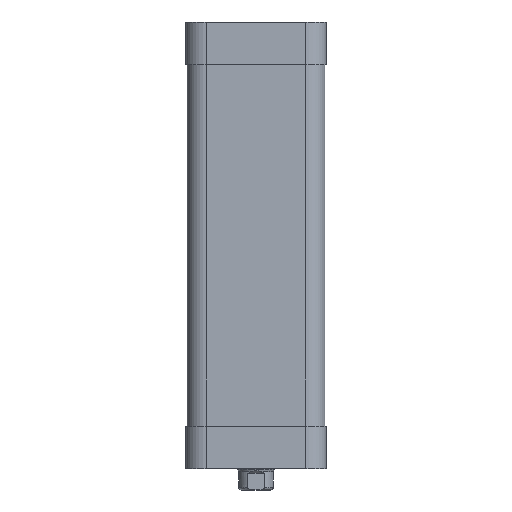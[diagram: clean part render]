
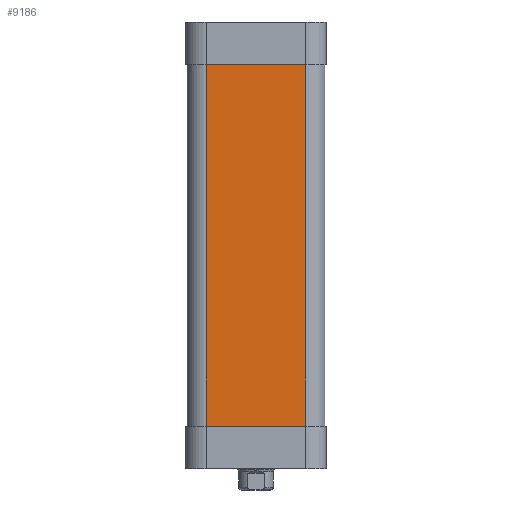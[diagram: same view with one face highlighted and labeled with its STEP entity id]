
A CAD part, front view. The second image highlights one B-rep face of the part: STEP entity #9186.
In plain terms, the highlighted planar face has unit normal (0, -1, 0).
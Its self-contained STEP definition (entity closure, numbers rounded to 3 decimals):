
#5283=CARTESIAN_POINT('',(15.75,-22.0,-11.6));
#5284=VERTEX_POINT('',#5283);
#5292=CARTESIAN_POINT('',(-16.75,-22.0,-11.6));
#5293=VERTEX_POINT('',#5292);
#5294=CARTESIAN_POINT('',(-16.75,-22.0,-11.6));
#5295=DIRECTION('',(1.0,0.0,0.0));
#5296=VECTOR('',#5295,32.5);
#5297=LINE('',#5294,#5296);
#5298=EDGE_CURVE('',#5293,#5284,#5297,.T.);
#7360=CARTESIAN_POINT('',(-16.75,-22.0,106.6));
#7361=VERTEX_POINT('',#7360);
#7369=CARTESIAN_POINT('',(15.75,-22.0,106.6));
#7370=VERTEX_POINT('',#7369);
#7371=CARTESIAN_POINT('',(15.75,-22.0,106.6));
#7372=DIRECTION('',(-1.0,0.0,0.0));
#7373=VECTOR('',#7372,32.5);
#7374=LINE('',#7371,#7373);
#7375=EDGE_CURVE('',#7370,#7361,#7374,.T.);
#9159=CARTESIAN_POINT('',(15.75,-22.0,-11.6));
#9160=DIRECTION('',(0.0,0.0,1.0));
#9161=VECTOR('',#9160,118.2);
#9162=LINE('',#9159,#9161);
#9163=EDGE_CURVE('',#5284,#7370,#9162,.T.);
#9170=CARTESIAN_POINT('',(15.75,-22.0,-11.6));
#9171=DIRECTION('',(0.0,-1.0,0.0));
#9172=DIRECTION('',(0.0,0.0,-1.0));
#9173=AXIS2_PLACEMENT_3D('',#9170,#9171,#9172);
#9174=PLANE('',#9173);
#9175=ORIENTED_EDGE('',*,*,#7375,.T.);
#9176=CARTESIAN_POINT('',(-16.75,-22.0,-11.6));
#9177=DIRECTION('',(0.0,0.0,1.0));
#9178=VECTOR('',#9177,118.2);
#9179=LINE('',#9176,#9178);
#9180=EDGE_CURVE('',#5293,#7361,#9179,.T.);
#9181=ORIENTED_EDGE('',*,*,#9180,.F.);
#9182=ORIENTED_EDGE('',*,*,#5298,.T.);
#9183=ORIENTED_EDGE('',*,*,#9163,.T.);
#9184=EDGE_LOOP('',(#9175,#9181,#9182,#9183));
#9185=FACE_OUTER_BOUND('',#9184,.T.);
#9186=ADVANCED_FACE('',(#9185),#9174,.T.);
